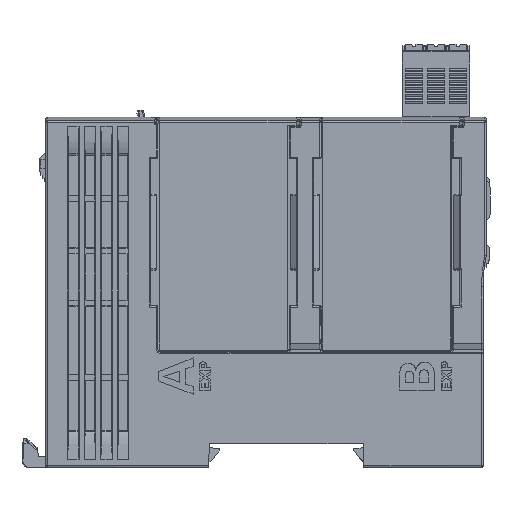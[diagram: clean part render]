
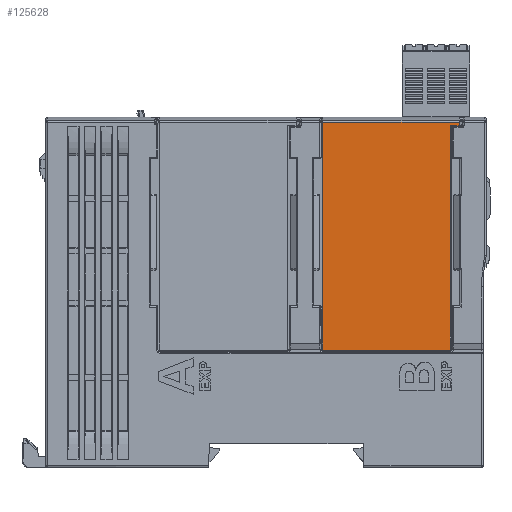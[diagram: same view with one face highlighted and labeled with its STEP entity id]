
A CAD part, left-side view. The second image highlights one B-rep face of the part: STEP entity #125628.
In plain terms, the highlighted planar face has unit normal (-1, 0, 0).
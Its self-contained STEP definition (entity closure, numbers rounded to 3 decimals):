
#23902=DIRECTION('',(0.,0.,1.));
#23903=VECTOR('',#23902,0.795);
#23904=CARTESIAN_POINT('',(-19.3,-44.55,-1.841));
#23905=LINE('',#23904,#23903);
#23910=CARTESIAN_POINT('',(-19.3,-42.55,
-53.192));
#23911=CARTESIAN_POINT('',(-19.3,-42.55,
-53.197));
#23912=CARTESIAN_POINT('',(-19.3,-42.549,
-53.209));
#23913=CARTESIAN_POINT('',(-19.3,-42.546,
-53.226));
#23914=CARTESIAN_POINT('',(-19.3,-42.541,-53.243));
#23915=CARTESIAN_POINT('',(-19.3,-42.534,-53.261));
#23916=CARTESIAN_POINT('',(-19.3,-42.523,-53.278));
#23917=CARTESIAN_POINT('',(-19.3,-42.51,-53.295));
#23918=CARTESIAN_POINT('',(-19.3,-42.493,-53.31));
#23919=CARTESIAN_POINT('',(-19.3,-42.474,-53.323));
#23920=CARTESIAN_POINT('',(-19.3,-42.452,
-53.333));
#23921=CARTESIAN_POINT('',(-19.3,-42.427,
-53.34));
#23922=CARTESIAN_POINT('',(-19.3,-42.409,
-53.342));
#23923=CARTESIAN_POINT('',(-19.3,-42.4,
-53.342));
#23925=CARTESIAN_POINT('',(-19.3,-13.5,
-53.342));
#23926=CARTESIAN_POINT('',(-19.3,-13.494,
-53.342));
#23927=CARTESIAN_POINT('',(-19.3,-13.483,
-53.341));
#23928=CARTESIAN_POINT('',(-19.3,-13.466,
-53.338));
#23929=CARTESIAN_POINT('',(-19.3,-13.448,-53.333));
#23930=CARTESIAN_POINT('',(-19.3,-13.431,-53.326));
#23931=CARTESIAN_POINT('',(-19.3,-13.414,-53.315));
#23932=CARTESIAN_POINT('',(-19.3,-13.397,-53.302));
#23933=CARTESIAN_POINT('',(-19.3,-13.382,-53.285));
#23934=CARTESIAN_POINT('',(-19.3,-13.369,-53.266));
#23935=CARTESIAN_POINT('',(-19.3,-13.359,
-53.244));
#23936=CARTESIAN_POINT('',(-19.3,-13.352,
-53.219));
#23937=CARTESIAN_POINT('',(-19.3,-13.35,
-53.201));
#23938=CARTESIAN_POINT('',(-19.3,-13.35,
-53.192));
#23952=DIRECTION('',(0.,-1.,
0.));
#23953=VECTOR('',#23952,2.);
#23954=CARTESIAN_POINT('',(-19.3,-42.55,
-1.841));
#23955=LINE('',#23954,#23953);
#23956=DIRECTION('',(0.,0.,1.));
#23957=VECTOR('',#23956,51.351);
#23958=CARTESIAN_POINT('',(-19.3,-42.55,
-53.192));
#23959=LINE('',#23958,#23957);
#23986=DIRECTION('',(0.,-1.,0.));
#23987=VECTOR('',#23986,28.9);
#23988=CARTESIAN_POINT('',(-19.3,-13.5,
-53.342));
#23989=LINE('',#23988,#23987);
#24012=DIRECTION('',(0.,0.,-1.));
#24013=VECTOR('',#24012,52.145);
#24014=CARTESIAN_POINT('',(-19.3,-13.35,
-1.046));
#24015=LINE('',#24014,#24013);
#24049=DIRECTION('',(0.,1.,0.));
#24050=VECTOR('',#24049,31.2);
#24051=CARTESIAN_POINT('',(-19.3,-44.55,-1.046));
#24052=LINE('',#24051,#24050);
#78125=CARTESIAN_POINT('',(-19.3,-44.55,-1.046));
#78126=VERTEX_POINT('',#78125);
#78127=CARTESIAN_POINT('',(-19.3,-44.55,-1.841));
#78128=VERTEX_POINT('',#78127);
#78129=CARTESIAN_POINT('',(-19.3,-42.55,
-1.841));
#78130=VERTEX_POINT('',#78129);
#78131=CARTESIAN_POINT('',(-19.3,-42.55,
-53.192));
#78132=VERTEX_POINT('',#78131);
#78133=VERTEX_POINT('',#23923);
#78134=CARTESIAN_POINT('',(-19.3,-13.5,
-53.342));
#78135=VERTEX_POINT('',#78134);
#78136=VERTEX_POINT('',#23938);
#78137=CARTESIAN_POINT('',(-19.3,-13.35,
-1.046));
#78138=VERTEX_POINT('',#78137);
#125606=CARTESIAN_POINT('',(-19.3,-27.95,-26.));
#125607=DIRECTION('',(1.,0.,0.));
#125608=DIRECTION('',(0.,1.,0.));
#125609=AXIS2_PLACEMENT_3D('',#125606,#125607,#125608);
#125610=PLANE('',#125609);
#125612=ORIENTED_EDGE('',*,*,#125611,.F.);
#125614=ORIENTED_EDGE('',*,*,#125613,.F.);
#125616=ORIENTED_EDGE('',*,*,#125615,.T.);
#125618=ORIENTED_EDGE('',*,*,#125617,.F.);
#125620=ORIENTED_EDGE('',*,*,#125619,.T.);
#125622=ORIENTED_EDGE('',*,*,#125621,.F.);
#125624=ORIENTED_EDGE('',*,*,#125623,.F.);
#125625=ORIENTED_EDGE('',*,*,#125597,.F.);
#125626=EDGE_LOOP('',(#125612,#125614,#125616,#125618,#125620,#125622,#125624,
#125625));
#125627=FACE_OUTER_BOUND('',#125626,.F.);
#125628=ADVANCED_FACE('',(#125627),#125610,.F.);
#23924=B_SPLINE_CURVE_WITH_KNOTS('',3,(#23910,#23911,#23912,#23913,#23914,
#23915,#23916,#23917,#23918,#23919,#23920,#23921,#23922,#23923),.UNSPECIFIED.,
.F.,.F.,(4,1,1,1,1,1,1,1,1,1,1,4),(0.,0.073,0.146,
0.222,0.302,0.386,0.477,
0.573,0.672,0.774,0.882,1.),
.UNSPECIFIED.);
#23939=B_SPLINE_CURVE_WITH_KNOTS('',3,(#23925,#23926,#23927,#23928,#23929,
#23930,#23931,#23932,#23933,#23934,#23935,#23936,#23937,#23938),.UNSPECIFIED.,
.F.,.F.,(4,1,1,1,1,1,1,1,1,1,1,4),(0.,0.073,0.146,
0.222,0.302,0.386,0.477,
0.572,0.672,0.774,0.882,1.),
.UNSPECIFIED.);
#125597=EDGE_CURVE('',#78128,#78126,#23905,.T.);
#125611=EDGE_CURVE('',#78130,#78128,#23955,.T.);
#125613=EDGE_CURVE('',#78132,#78130,#23959,.T.);
#125615=EDGE_CURVE('',#78132,#78133,#23924,.T.);
#125617=EDGE_CURVE('',#78135,#78133,#23989,.T.);
#125619=EDGE_CURVE('',#78135,#78136,#23939,.T.);
#125621=EDGE_CURVE('',#78138,#78136,#24015,.T.);
#125623=EDGE_CURVE('',#78126,#78138,#24052,.T.);
